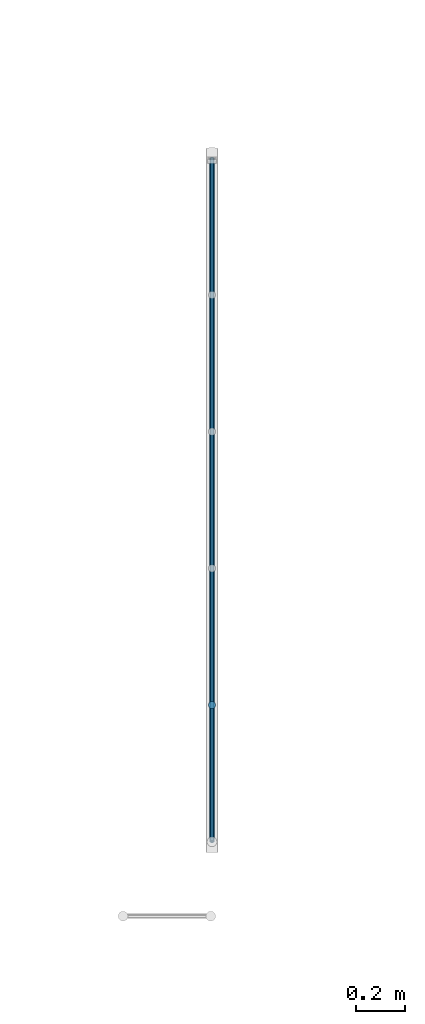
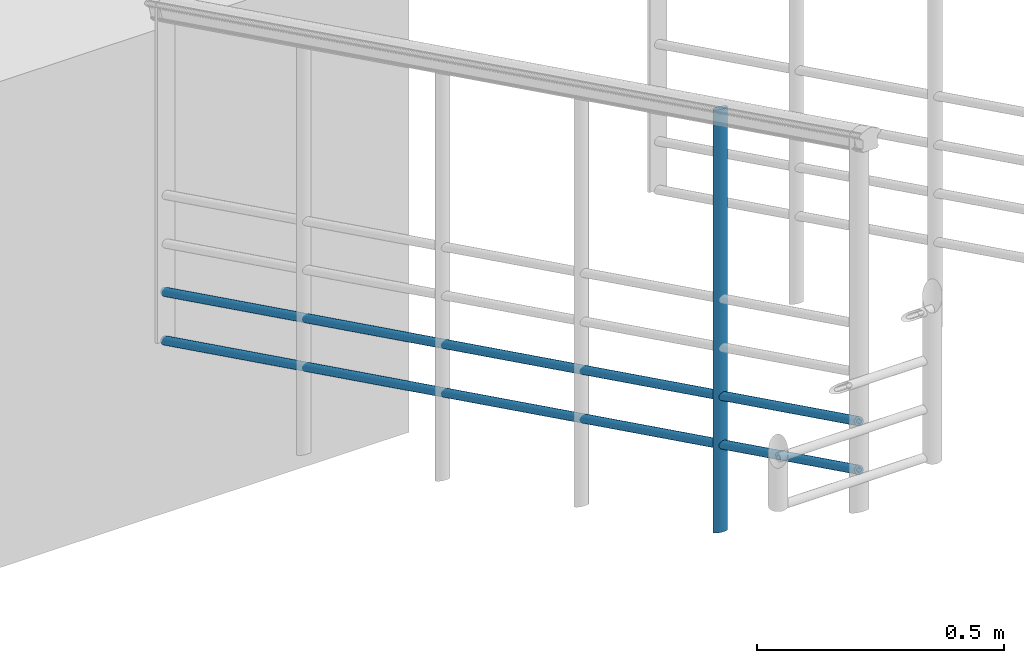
# One storey, part 2 of 16: 3 members, 1 element without a shape of its own.
"""IFC2X3 building model written with IfcOpenShell, lengths in millimetres."""

import ifcopenshell
import ifcopenshell.guid

model = None  # the IFC model being written
_history = None  # IfcOwnerHistory: only IFC2X3 demands one
_inside = {}  # id of a spatial element -> (the spatial element, [elements in it])
_under = {}  # id of a project, library or spatial element -> (it, [spatial elements below it])
_declared = {}  # id of a project -> (the project, [libraries it declares])
_typed = {}  # id of a type object -> (the type object, [elements of that type])
_made_of = {}  # id of a material, layer set ... -> (it, [elements and type objects made of it])


def new_model(schema):
    """Start an empty IFC model of exactly this schema.

    Asked for "IFC4X3", IfcOpenShell would pick the latest addendum, in which some entities
    have other attributes; the version numbers below select the first issue.
    IFC2X3 requires an IfcOwnerHistory on every rooted entity: one is made here for all.
    """
    global model, _history
    if schema == "IFC4X3":
        model = ifcopenshell.file(schema_version=(4, 3, 0, 0))
    else:
        model = ifcopenshell.file(schema=schema)
    _inside.clear()
    _under.clear()
    _declared.clear()
    _typed.clear()
    _made_of.clear()
    _history = None
    if model.schema == "IFC2X3":
        org = make("IfcOrganization", Name="unknown")
        user = make(
            "IfcPersonAndOrganization",
            ThePerson=make("IfcPerson", FamilyName="unknown"),
            TheOrganization=org,
        )
        app = make(
            "IfcApplication",
            ApplicationDeveloper=org,
            Version="unknown",
            ApplicationFullName="unknown",
            ApplicationIdentifier="unknown",
        )
        _history = make(
            "IfcOwnerHistory",
            OwningUser=user,
            OwningApplication=app,
            ChangeAction="ADDED",
            CreationDate=0,
        )
    return model


def make(cls, **values):
    """One entity of the class cls with the attributes given. An attribute that is None is left unset."""
    return model.create_entity(
        cls, **{name: value for name, value in values.items() if value is not None}
    )


def entity(cls, *values):
    """Any entity or typed value of the class cls, its attributes in the order of the schema. None: left unset."""
    e = model.create_entity(cls)
    for i, value in enumerate(values):
        if value is not None:
            e[i] = value
    return e


def rooted(cls, **values):
    """An entity with a GlobalId (a new one), such as an element, a storey or a relation."""
    return make(cls, GlobalId=ifcopenshell.guid.new(), OwnerHistory=_history, **values)


def si_unit(unit_type, name, prefix=None):
    """IfcSIUnit, for example si_unit("LENGTHUNIT", "METRE", prefix="MILLI")."""
    return make("IfcSIUnit", UnitType=unit_type, Prefix=prefix, Name=name)


def converted_unit(unit_type, name, factor, base, dimensions=None, offset=None):
    """IfcConversionBasedUnit, such as the inch: factor (a typed value) times the base unit."""
    return make(
        "IfcConversionBasedUnit"
        if offset is None
        else "IfcConversionBasedUnitWithOffset",
        ConversionOffset=offset,
        Dimensions=None
        if dimensions is None
        else entity("IfcDimensionalExponents", *dimensions),
        UnitType=unit_type,
        Name=name,
        ConversionFactor=make(
            "IfcMeasureWithUnit", ValueComponent=factor, UnitComponent=base
        ),
    )


def derived_unit(unit_type, elements):
    """IfcDerivedUnit: a product of units, each with its exponent."""
    return make(
        "IfcDerivedUnit",
        Elements=[
            make("IfcDerivedUnitElement", Unit=unit, Exponent=power)
            for unit, power in elements
        ],
        UnitType=unit_type,
    )


def money_unit(currency):
    """IfcMonetaryUnit."""
    return make("IfcMonetaryUnit", Currency=currency)


def assignment(units):
    """IfcUnitAssignment: the units of a project."""
    return None if units is None else make("IfcUnitAssignment", Units=units)


def point(xyz):
    """IfcCartesianPoint."""
    return None if xyz is None else make("IfcCartesianPoint", Coordinates=xyz)


def direction(xyz):
    """IfcDirection."""
    return None if xyz is None else make("IfcDirection", DirectionRatios=xyz)


def frame(location, z_axis=None, x_axis=None):
    """IfcAxis2Placement3D, a coordinate frame: its origin and axes. An axis left out is left unset."""
    return make(
        "IfcAxis2Placement3D",
        Location=point(location),
        Axis=direction(z_axis),
        RefDirection=direction(x_axis),
    )


def origin_with_axes():
    """The frame at (0, 0, 0) with the z axis (0, 0, 1) and the x axis (1, 0, 0) written out."""
    return frame((0.0, 0.0, 0.0), z_axis=(0.0, 0.0, 1.0), x_axis=(1.0, 0.0, 0.0))


def place(relative_to, where):
    """IfcLocalPlacement: puts the frame where relative to a parent placement (None: the world)."""
    return make(
        "IfcLocalPlacement", PlacementRelTo=relative_to, RelativePlacement=where
    )


def context(
    kind, dimensions, precision=None, world=None, true_north=None, identifier=None
):
    """IfcGeometricRepresentationContext, for example the 3D "Model" context."""
    return make(
        "IfcGeometricRepresentationContext",
        ContextIdentifier=identifier,
        ContextType=kind,
        CoordinateSpaceDimension=dimensions,
        Precision=precision,
        WorldCoordinateSystem=world,
        TrueNorth=true_north,
    )


def subcontext(parent, identifier, kind, view, scale=None):
    """IfcGeometricRepresentationSubContext, for example "Body" below "Model"."""
    return make(
        "IfcGeometricRepresentationSubContext",
        ContextIdentifier=identifier,
        ContextType=kind,
        ParentContext=parent,
        TargetScale=scale,
        TargetView=view,
    )


def project(units=None, contexts=None):
    """IfcProject with its units and contexts."""
    return rooted(
        "IfcProject",
        Name="project",
        RepresentationContexts=contexts,
        UnitsInContext=assignment(units),
    )


def spatial(cls, under=None, at=None, **own):
    """A site, building, storey or space (cls), placed at a placement, below another one or the project."""
    s = rooted(cls, ObjectPlacement=at, **own)
    if under is not None:
        _under.setdefault(under.id(), (under, []))[1].append(s)
    return s


def faces_of(points, faces, orient=None, outer=None):
    """IfcFace entities. A face is a list of loops; a loop is a list of indices into points, from 0.

    orient and outer hold one flag for each loop. By default every Orientation is true, the
    first loop of a face is its IfcFaceOuterBound and the others are IfcFaceBound.
    """
    made = []
    for i, loops in enumerate(faces):
        bounds = []
        for j, loop in enumerate(loops):
            is_outer = j == 0 if outer is None else outer[i][j]
            bounds.append(
                make(
                    "IfcFaceOuterBound" if is_outer else "IfcFaceBound",
                    Bound=make("IfcPolyLoop", Polygon=[points[k] for k in loop]),
                    Orientation=True if orient is None else orient[i][j],
                )
            )
        made.append(make("IfcFace", Bounds=bounds))
    return made


def faceted_brep(points, faces, orient=None, outer=None, voids=None):
    """IfcFacetedBrep: a solid bounded by flat faces; with voids (closed shells), ...WithVoids."""
    shared = [point(p) for p in points]
    hull = make("IfcClosedShell", CfsFaces=faces_of(shared, faces, orient, outer))
    if voids is None:
        return make("IfcFacetedBrep", Outer=hull)
    return make(
        "IfcFacetedBrepWithVoids",
        Outer=hull,
        Voids=[
            make(cls, CfsFaces=faces_of(shared, fs, o, b)) for cls, fs, o, b in voids
        ],
    )


def shape(context_of_items, identifier, shape_type, items):
    """IfcShapeRepresentation: the items that make up one representation, for example the "Body"."""
    return make(
        "IfcShapeRepresentation",
        ContextOfItems=context_of_items,
        RepresentationIdentifier=identifier,
        RepresentationType=shape_type,
        Items=items,
    )


def source(mapping_origin, context_of_items, identifier, shape_type, items):
    """IfcRepresentationMap: a shape defined once, which mapped items show again and again."""
    return make(
        "IfcRepresentationMap",
        MappingOrigin=mapping_origin,
        MappedRepresentation=shape(context_of_items, identifier, shape_type, items),
    )


def transform(
    local_origin,
    x_axis=None,
    y_axis=None,
    z_axis=None,
    scale=None,
    scale2=None,
    scale3=None,
    uniform=True,
):
    """IfcCartesianTransformationOperator3D, or its non-uniform kind. x_axis, y_axis, z_axis: its Axis1, 2, 3."""
    if uniform:
        return make(
            "IfcCartesianTransformationOperator3D",
            Axis1=direction(x_axis),
            Axis2=direction(y_axis),
            LocalOrigin=point(local_origin),
            Scale=scale,
            Axis3=direction(z_axis),
        )
    return make(
        "IfcCartesianTransformationOperator3DnonUniform",
        Axis1=direction(x_axis),
        Axis2=direction(y_axis),
        LocalOrigin=point(local_origin),
        Scale=scale,
        Axis3=direction(z_axis),
        Scale2=scale2,
        Scale3=scale3,
    )


def mapped(mapping_source, mapping_target):
    """IfcMappedItem: shows the shape of a source again, moved by a transform."""
    return make(
        "IfcMappedItem", MappingSource=mapping_source, MappingTarget=mapping_target
    )


def material(Name=None, Category=None):
    """IfcMaterial."""
    return make("IfcMaterial", Name=Name, Category=Category)


def made_of(thing, what):
    """Note that an element or type object is made of a material, layer set ...; save() writes the relation."""
    if what is not None:
        _made_of.setdefault(what.id(), (what, []))[1].append(thing)
    return thing


def type_object(cls, material=None, **own):
    """A type object (cls), such as IfcWallType, which elements share."""
    return made_of(rooted(cls, **own), material)


def element(
    cls,
    number,
    at=None,
    inside=None,
    cuts=None,
    type_object=None,
    material=None,
    context=None,
    identifier="Body",
    shape_type=None,
    held_by="IfcProductDefinitionShape",
    body=None,
    shapes=None,
    **own,
):
    """One element of the class cls, such as IfcWall. Its Tag is "e" and its number.

    at: its placement. inside: the storey or other place that contains it. cuts: it is an
    opening in that element (IfcRelVoidsElement). A single representation is given by context,
    identifier, shape_type and body (its items); several are given by shapes. held_by: the class
    of the entity that holds the representations. save() writes the other relations.
    """
    e = rooted(cls, Tag="e%d" % number, ObjectPlacement=at, **own)
    if body is not None:
        shapes = [shape(context, identifier, shape_type, body)]
    if shapes is not None:
        e.Representation = make(held_by, Representations=shapes)
    if inside is not None:
        _inside.setdefault(inside.id(), (inside, []))[1].append(e)
    if cuts is not None:
        rooted(
            "IfcRelVoidsElement", RelatingBuildingElement=cuts, RelatedOpeningElement=e
        )
    if type_object is not None:
        _typed.setdefault(type_object.id(), (type_object, []))[1].append(e)
    return made_of(e, material)


def aggregate(whole, parts):
    """IfcRelAggregates: a whole, such as a stair, and the parts it consists of."""
    return rooted("IfcRelAggregates", RelatingObject=whole, RelatedObjects=parts)


def save(model, path):
    """Write the relations noted so far, then the file.

    IfcRelAggregates (storeys below a building ...), IfcRelContainedInSpatialStructure (elements
    in a storey), IfcRelDefinesByType, IfcRelAssociatesMaterial and IfcRelDeclares: one each for
    every whole, place, type object, material and project.
    """
    for whole, parts in _under.values():
        aggregate(whole, parts)
    for where, things in _inside.values():
        rooted(
            "IfcRelContainedInSpatialStructure",
            RelatedElements=things,
            RelatingStructure=where,
        )
    for kind, things in _typed.values():
        rooted("IfcRelDefinesByType", RelatedObjects=things, RelatingType=kind)
    for what, things in _made_of.values():
        rooted("IfcRelAssociatesMaterial", RelatedObjects=things, RelatingMaterial=what)
    for by, libraries in _declared.values():
        rooted("IfcRelDeclares", RelatingContext=by, RelatedDefinitions=libraries)
    model.write(path)


model = new_model("IFC2X3")

# Units and contexts
model_context = context("Model", 3, precision=0.01, world=origin_with_axes(), true_north=direction((0.0, 1.0)))
body_context = subcontext(model_context, "Body", "Model", "MODEL_VIEW")
ifc_project = project(units=[si_unit("LENGTHUNIT", "METRE", prefix="MILLI"), si_unit("AREAUNIT", "SQUARE_METRE"), si_unit("VOLUMEUNIT", "CUBIC_METRE"), converted_unit("PLANEANGLEUNIT", "DEGREE", entity("IfcPlaneAngleMeasure", 0.0174532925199), si_unit("PLANEANGLEUNIT", "RADIAN"), dimensions=[0, 0, 0, 0, 0, 0, 0]), si_unit("SOLIDANGLEUNIT", "STERADIAN"), money_unit("EUR"), converted_unit("TIMEUNIT", "Year", entity("IfcTimeMeasure", 31556926.0), si_unit("TIMEUNIT", "SECOND"), dimensions=[0, 0, 1, 0, 0, 0, 0]), si_unit("MASSUNIT", "GRAM", prefix="KILO"), si_unit("THERMODYNAMICTEMPERATUREUNIT", "DEGREE_CELSIUS"), si_unit("LUMINOUSINTENSITYUNIT", "LUMEN"), si_unit("ENERGYUNIT", "JOULE", prefix="MEGA"), derived_unit("THERMALCONDUCTANCEUNIT", [(si_unit("POWERUNIT", "WATT"), 1), (si_unit("LENGTHUNIT", "METRE"), -1), (si_unit("THERMODYNAMICTEMPERATUREUNIT", "KELVIN"), -1)]), derived_unit("SPECIFICHEATCAPACITYUNIT", [(si_unit("ENERGYUNIT", "JOULE"), 1), (si_unit("MASSUNIT", "GRAM", prefix="KILO"), -1), (si_unit("THERMODYNAMICTEMPERATUREUNIT", "KELVIN"), -1)]), derived_unit("MASSDENSITYUNIT", [(si_unit("MASSUNIT", "GRAM", prefix="KILO"), 1), (si_unit("VOLUMEUNIT", "CUBIC_METRE"), -1)])], contexts=[model_context])

# Site, building, storey
site_placement = place(None, origin_with_axes())
site = spatial("IfcSite", under=ifc_project, at=site_placement, Name="Paldiski mnt 245/1, Tallinn, Harjumaa", CompositionType="COMPLEX")
building_placement = place(site_placement, origin_with_axes())
building = spatial("IfcBuilding", under=site, at=building_placement, Name="RKAS Hoone üldnimetus (kasutust iseloomustav) -> IFC Project Manager -> SOLIBRI", CompositionType="ELEMENT")
storey_placement = place(building_placement, frame((0.0, 0.0, -1200.0), z_axis=(0.0, 0.0, 1.0), x_axis=(1.0, 0.0, 0.0)))
storey = spatial("IfcBuildingStorey", under=building, at=storey_placement, Name="Vundament", CompositionType="ELEMENT", Elevation=-1200.0)

# Railing, members
railing_type = type_object("IfcRailingType", Name="Railing Type", PredefinedType="NOTDEFINED")
railing_placement = place(storey_placement, frame((-45764.8098199, -7778.11378171, 1483.63636364), z_axis=(0.0, 0.0, 1.0), x_axis=(-0.773149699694, -0.634223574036, 0.0)))
railing = element("IfcRailing", 1, at=railing_placement, inside=storey, type_object=railing_type, Name="PIIRE", PredefinedType="NOTDEFINED")
ifc_material = material(Name="ET-07_Teras - Roostevaba")
member_type_1 = type_object("IfcMemberType", Name="IfcMember", PredefinedType="USERDEFINED")
shared_shape_1 = source(origin_with_axes(), body_context, "Body", "Brep", [
    faceted_brep([(10.0, 0.0, 100.0), (9.84807753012, 0.767326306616, 101.55774815), (9.84807753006, -2806.30553558, 1484.28502088), (9.99999999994, -2807.07286188, 1482.72727273), (9.84807753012, -0.767326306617, 98.4422518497), (9.39692620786, -1.51133779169, 96.9318350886), (8.66025403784, -2.20942804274, 95.5146429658), (7.66044443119, -2.84038594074, 94.2337361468), (6.42787609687, -3.38504014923, 93.1280343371), (5.0, -3.82684162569, 92.2311337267), (3.42020143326, -4.15236645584, 91.5702861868), (1.73648177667, -4.35172373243, 91.1655712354), (0.0, -4.41885608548, 91.0292859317), (-1.73648177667, -4.35172373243, 91.1655712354), (-3.42020143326, -4.15236645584, 91.5702861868), (-5.0, -3.82684162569, 92.2311337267), (-6.42787609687, -3.38504014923, 93.1280343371), (-7.66044443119, -2.84038594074, 94.2337361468), (-8.66025403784, -2.20942804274, 95.5146429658), (-9.39692620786, -1.51133779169, 96.9318350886), (-9.84807753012, -0.767326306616, 98.4422518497), (-10.0, 0.0, 100.0), (-9.84807753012, 0.767326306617, 101.55774815), (-9.39692620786, 1.51133779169, 103.068164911), (-8.66025403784, 2.20942804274, 104.485357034), (-7.66044443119, 2.84038594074, 105.766263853), (-6.42787609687, 3.38504014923, 106.871965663), (-5.0, 3.82684162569, 107.768866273), (-3.42020143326, 4.15236645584, 108.429713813), (-1.73648177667, 4.35172373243, 108.834428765), (0.0, 4.41885608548, 108.970714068), (1.73648177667, 4.35172373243, 108.834428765), (3.42020143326, 4.15236645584, 108.429713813), (5.0, 3.82684162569, 107.768866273), (6.42787609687, 3.38504014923, 106.871965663), (7.66044443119, 2.84038594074, 105.766263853), (8.66025403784, 2.20942804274, 104.485357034), (9.39692620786, 1.51133779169, 103.068164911), (5.5, 0.0, 100.0), (5.41644264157, 0.422029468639, 100.856761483), (5.16830941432, 0.83123578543, 101.687490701), (4.76313972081, 1.21518542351, 102.466946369), (4.21324443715, 1.5622122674, 103.171445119), (3.53533185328, 1.86177208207, 103.779581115), (2.75, 2.10476289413, 104.27287645), (1.88111078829, 2.28380155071, 104.636342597), (0.955064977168, 2.39344805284, 104.858935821), (0.0, 2.43037084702, 104.933892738), (-0.955064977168, 2.39344805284, 104.858935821), (-1.88111078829, 2.28380155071, 104.636342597), (-2.75, 2.10476289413, 104.27287645), (-3.53533185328, 1.86177208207, 103.779581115), (-4.21324443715, 1.5622122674, 103.171445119), (-4.76313972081, 1.21518542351, 102.466946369), (-5.16830941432, 0.831235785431, 101.687490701), (-5.41644264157, 0.422029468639, 100.856761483), (-5.5, 0.0, 100.0), (-5.41644264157, -0.422029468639, 99.1432385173), (-5.16830941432, -0.83123578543, 98.3125092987), (-4.76313972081, -1.21518542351, 97.5330536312), (-4.21324443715, -1.5622122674, 96.8285548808), (-3.53533185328, -1.86177208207, 96.2204188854), (-2.75, -2.10476289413, 95.7271235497), (-1.88111078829, -2.28380155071, 95.3636574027), (-0.955064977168, -2.39344805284, 95.1410641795), (0.0, -2.43037084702, 95.0661072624), (0.955064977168, -2.39344805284, 95.1410641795), (1.88111078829, -2.28380155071, 95.3636574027), (2.75, -2.10476289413, 95.7271235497), (3.53533185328, -1.86177208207, 96.2204188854), (4.21324443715, -1.5622122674, 96.8285548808), (4.76313972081, -1.21518542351, 97.5330536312), (5.16830941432, -0.831235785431, 98.3125092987), (5.41644264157, -0.422029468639, 99.1432385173), (9.3969262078, -2805.56152409, 1485.79543764), (8.66025403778, -2804.86343384, 1487.21262976), (7.66044443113, -2804.23247594, 1488.49353658), (6.4278760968, -2803.68782173, 1489.59923839), (4.99999999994, -2803.24602026, 1490.496139), (3.42020143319, -2802.92049543, 1491.15698654), (1.73648177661, -2802.72113815, 1491.56170149), (0.0, -2802.6540058, 1491.6979868), (-1.73648177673, -2802.72113815, 1491.56170149), (-3.42020143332, -2802.92049543, 1491.15698654), (-5.00000000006, -2803.24602026, 1490.496139), (-6.42787609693, -2803.68782173, 1489.59923839), (-7.66044443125, -2804.23247594, 1488.49353658), (-8.66025403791, -2804.86343384, 1487.21262976), (-9.39692620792, -2805.56152409, 1485.79543764), (-9.84807753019, -2806.30553558, 1484.28502088), (-10.0000000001, -2807.07286188, 1482.72727273), (-9.84807753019, -2807.84018819, 1481.16952458), (-9.39692620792, -2808.58419967, 1479.65910782), (-8.66025403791, -2809.28228993, 1478.24191569), (-7.66044443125, -2809.91324782, 1476.96100887), (-6.42787609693, -2810.45790203, 1475.85530706), (-5.00000000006, -2810.89970351, 1474.95840645), (-3.42020143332, -2811.22522834, 1474.29755891), (-1.73648177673, -2811.42458562, 1473.89284396), (0.0, -2811.49171797, 1473.75655866), (1.73648177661, -2811.42458562, 1473.89284396), (3.42020143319, -2811.22522834, 1474.29755891), (4.99999999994, -2810.89970351, 1474.95840645), (6.4278760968, -2810.45790203, 1475.85530706), (7.66044443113, -2809.91324782, 1476.96100887), (8.66025403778, -2809.28228993, 1478.24191569), (9.3969262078, -2808.58419967, 1479.65910782), (9.84807753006, -2807.84018819, 1481.16952458), (5.49999999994, -2807.07286188, 1482.72727273), (5.4164426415, -2807.49489135, 1481.87051124), (5.16830941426, -2807.90409767, 1481.03978203), (4.76313972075, -2808.28804731, 1480.26032636), (4.21324443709, -2808.63507415, 1479.55582761), (3.53533185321, -2808.93463397, 1478.94769161), (2.74999999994, -2809.17762478, 1478.45439628), (1.88111078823, -2809.35666343, 1478.09093013), (0.955064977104, -2809.46630994, 1477.86833691), (0.0, -2809.50323273, 1477.79337999), (-0.955064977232, -2809.46630994, 1477.86833691), (-1.88111078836, -2809.35666343, 1478.09093013), (-2.75000000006, -2809.17762478, 1478.45439628), (-3.53533185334, -2808.93463397, 1478.94769161), (-4.21324443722, -2808.63507415, 1479.55582761), (-4.76313972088, -2808.28804731, 1480.26032636), (-5.16830941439, -2807.90409767, 1481.03978203), (-5.41644264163, -2807.49489135, 1481.87051124), (-5.50000000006, -2807.07286188, 1482.72727273), (-5.41644264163, -2806.65083241, 1483.58403421), (-5.16830941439, -2806.2416261, 1484.41476343), (-4.76313972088, -2805.85767646, 1485.1942191), (-4.21324443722, -2805.51064962, 1485.89871785), (-3.53533185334, -2805.2110898, 1486.50685384), (-2.75000000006, -2804.96809899, 1487.00014918), (-1.88111078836, -2804.78906033, 1487.36361532), (-0.955064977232, -2804.67941383, 1487.58620855), (0.0, -2804.64249104, 1487.66116546), (0.955064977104, -2804.67941383, 1487.58620855), (1.88111078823, -2804.78906033, 1487.36361532), (2.74999999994, -2804.96809899, 1487.00014918), (3.53533185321, -2805.2110898, 1486.50685384), (4.21324443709, -2805.51064962, 1485.89871785), (4.76313972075, -2805.85767646, 1485.1942191), (5.16830941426, -2806.2416261, 1484.41476343), (5.4164426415, -2806.65083241, 1483.58403421)], [[[0, 1, 2, 3]], [[0, 4, 5, 6, 7, 8, 9, 10, 11, 12, 13, 14, 15, 16, 17, 18, 19, 20, 21, 22, 23, 24, 25, 26, 27, 28, 29, 30, 31, 32, 33, 34, 35, 36, 37, 1], [38, 39, 40, 41, 42, 43, 44, 45, 46, 47, 48, 49, 50, 51, 52, 53, 54, 55, 56, 57, 58, 59, 60, 61, 62, 63, 64, 65, 66, 67, 68, 69, 70, 71, 72, 73]], [[1, 37, 74, 2]], [[3, 2, 74, 75, 76, 77, 78, 79, 80, 81, 82, 83, 84, 85, 86, 87, 88, 89, 90, 91, 92, 93, 94, 95, 96, 97, 98, 99, 100, 101, 102, 103, 104, 105, 106, 107], [108, 109, 110, 111, 112, 113, 114, 115, 116, 117, 118, 119, 120, 121, 122, 123, 124, 125, 126, 127, 128, 129, 130, 131, 132, 133, 134, 135, 136, 137, 138, 139, 140, 141, 142, 143]], [[4, 0, 3, 107]], [[5, 4, 107, 106]], [[6, 5, 106, 105]], [[7, 6, 105, 104]], [[8, 7, 104, 103]], [[9, 8, 103, 102]], [[10, 9, 102, 101]], [[11, 10, 101, 100]], [[12, 11, 100, 99]], [[13, 12, 99, 98]], [[14, 13, 98, 97]], [[15, 14, 97, 96]], [[16, 15, 96, 95]], [[17, 16, 95, 94]], [[18, 17, 94, 93]], [[19, 18, 93, 92]], [[20, 19, 92, 91]], [[21, 20, 91, 90]], [[22, 21, 90, 89]], [[23, 22, 89, 88]], [[24, 23, 88, 87]], [[25, 24, 87, 86]], [[26, 25, 86, 85]], [[27, 26, 85, 84]], [[28, 27, 84, 83]], [[29, 28, 83, 82]], [[30, 29, 82, 81]], [[31, 30, 81, 80]], [[32, 31, 80, 79]], [[33, 32, 79, 78]], [[34, 33, 78, 77]], [[35, 34, 77, 76]], [[36, 35, 76, 75]], [[37, 36, 75, 74]], [[39, 38, 108, 143]], [[40, 39, 143, 142]], [[41, 40, 142, 141]], [[42, 41, 141, 140]], [[43, 42, 140, 139]], [[44, 43, 139, 138]], [[45, 44, 138, 137]], [[46, 45, 137, 136]], [[47, 46, 136, 135]], [[48, 47, 135, 134]], [[49, 48, 134, 133]], [[50, 49, 133, 132]], [[51, 50, 132, 131]], [[52, 51, 131, 130]], [[53, 52, 130, 129]], [[54, 53, 129, 128]], [[55, 54, 128, 127]], [[56, 55, 127, 126]], [[57, 56, 126, 125]], [[58, 57, 125, 124]], [[59, 58, 124, 123]], [[60, 59, 123, 122]], [[61, 60, 122, 121]], [[62, 61, 121, 120]], [[63, 62, 120, 119]], [[64, 63, 119, 118]], [[65, 64, 118, 117]], [[66, 65, 117, 116]], [[67, 66, 116, 115]], [[68, 67, 115, 114]], [[69, 68, 114, 113]], [[70, 69, 113, 112]], [[71, 70, 112, 111]], [[72, 71, 111, 110]], [[73, 72, 110, 109]], [[38, 73, 109, 108]]]),
])
member_1_placement = place(railing_placement, frame((890.155891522, 1085.14377009, -14.1421356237), z_axis=(0.0, 0.0, 1.0), x_axis=(-0.773149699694, 0.634223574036, 0.0)))
member_1 = element("IfcMember", 2, at=member_1_placement, type_object=member_type_1, material=ifc_material, Name="Piirde alaosa - 001", ObjectType="Rail", context=body_context, shape_type="MappedRepresentation", body=[
    mapped(shared_shape_1, transform((0.0, 1403.53643094, -85.8578643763))),
])
shared_shape_2 = source(origin_with_axes(), body_context, "Body", "Brep", [
    faceted_brep([(10.0, 0.0, 220.0), (9.84807753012, 0.767326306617, 221.55774815), (9.84807753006, -2806.30553558, 1604.28502088), (9.99999999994, -2807.07286188, 1602.72727273), (9.84807753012, -0.767326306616, 218.44225185), (9.39692620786, -1.51133779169, 216.931835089), (8.66025403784, -2.20942804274, 215.514642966), (7.66044443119, -2.84038594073, 214.233736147), (6.42787609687, -3.38504014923, 213.128034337), (5.0, -3.82684162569, 212.231133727), (3.42020143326, -4.15236645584, 211.570286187), (1.73648177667, -4.35172373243, 211.165571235), (0.0, -4.41885608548, 211.029285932), (-1.73648177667, -4.35172373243, 211.165571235), (-3.42020143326, -4.15236645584, 211.570286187), (-5.0, -3.82684162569, 212.231133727), (-6.42787609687, -3.38504014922, 213.128034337), (-7.66044443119, -2.84038594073, 214.233736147), (-8.66025403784, -2.20942804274, 215.514642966), (-9.39692620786, -1.51133779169, 216.931835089), (-9.84807753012, -0.767326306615, 218.44225185), (-10.0, 0.0, 220.0), (-9.84807753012, 0.767326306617, 221.55774815), (-9.39692620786, 1.51133779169, 223.068164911), (-8.66025403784, 2.20942804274, 224.485357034), (-7.66044443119, 2.84038594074, 225.766263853), (-6.42787609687, 3.38504014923, 226.871965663), (-5.0, 3.8268416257, 227.768866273), (-3.42020143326, 4.15236645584, 228.429713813), (-1.73648177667, 4.35172373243, 228.834428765), (0.0, 4.41885608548, 228.970714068), (1.73648177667, 4.35172373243, 228.834428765), (3.42020143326, 4.15236645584, 228.429713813), (5.0, 3.8268416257, 227.768866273), (6.42787609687, 3.38504014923, 226.871965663), (7.66044443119, 2.84038594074, 225.766263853), (8.66025403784, 2.20942804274, 224.485357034), (9.39692620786, 1.51133779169, 223.068164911), (5.5, 0.0, 220.0), (5.41644264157, 0.42202946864, 220.856761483), (5.16830941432, 0.831235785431, 221.687490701), (4.76313972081, 1.21518542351, 222.466946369), (4.21324443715, 1.56221226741, 223.171445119), (3.53533185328, 1.86177208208, 223.779581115), (2.75, 2.10476289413, 224.27287645), (1.88111078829, 2.28380155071, 224.636342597), (0.955064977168, 2.39344805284, 224.858935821), (0.0, 2.43037084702, 224.933892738), (-0.955064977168, 2.39344805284, 224.858935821), (-1.88111078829, 2.28380155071, 224.636342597), (-2.75, 2.10476289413, 224.27287645), (-3.53533185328, 1.86177208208, 223.779581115), (-4.21324443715, 1.56221226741, 223.171445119), (-4.76313972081, 1.21518542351, 222.466946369), (-5.16830941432, 0.831235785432, 221.687490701), (-5.41644264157, 0.42202946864, 220.856761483), (-5.5, 0.0, 220.0), (-5.41644264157, -0.422029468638, 219.143238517), (-5.16830941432, -0.83123578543, 218.312509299), (-4.76313972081, -1.21518542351, 217.533053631), (-4.21324443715, -1.5622122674, 216.828554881), (-3.53533185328, -1.86177208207, 216.220418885), (-2.75, -2.10476289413, 215.72712355), (-1.88111078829, -2.28380155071, 215.363657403), (-0.955064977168, -2.39344805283, 215.141064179), (0.0, -2.43037084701, 215.066107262), (0.955064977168, -2.39344805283, 215.141064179), (1.88111078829, -2.28380155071, 215.363657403), (2.75, -2.10476289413, 215.72712355), (3.53533185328, -1.86177208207, 216.220418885), (4.21324443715, -1.5622122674, 216.828554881), (4.76313972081, -1.21518542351, 217.533053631), (5.16830941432, -0.83123578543, 218.312509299), (5.41644264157, -0.422029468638, 219.143238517), (9.3969262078, -2805.56152409, 1605.79543764), (8.66025403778, -2804.86343384, 1607.21262976), (7.66044443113, -2804.23247594, 1608.49353658), (6.4278760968, -2803.68782173, 1609.59923839), (4.99999999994, -2803.24602026, 1610.496139), (3.42020143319, -2802.92049543, 1611.15698654), (1.73648177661, -2802.72113815, 1611.56170149), (0.0, -2802.6540058, 1611.6979868), (-1.73648177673, -2802.72113815, 1611.56170149), (-3.42020143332, -2802.92049543, 1611.15698654), (-5.00000000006, -2803.24602026, 1610.496139), (-6.42787609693, -2803.68782173, 1609.59923839), (-7.66044443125, -2804.23247594, 1608.49353658), (-8.66025403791, -2804.86343384, 1607.21262976), (-9.39692620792, -2805.56152409, 1605.79543764), (-9.84807753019, -2806.30553558, 1604.28502088), (-10.0000000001, -2807.07286188, 1602.72727273), (-9.84807753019, -2807.84018819, 1601.16952458), (-9.39692620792, -2808.58419967, 1599.65910782), (-8.66025403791, -2809.28228993, 1598.24191569), (-7.66044443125, -2809.91324782, 1596.96100887), (-6.42787609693, -2810.45790203, 1595.85530706), (-5.00000000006, -2810.89970351, 1594.95840645), (-3.42020143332, -2811.22522834, 1594.29755891), (-1.73648177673, -2811.42458562, 1593.89284396), (0.0, -2811.49171797, 1593.75655866), (1.73648177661, -2811.42458562, 1593.89284396), (3.42020143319, -2811.22522834, 1594.29755891), (4.99999999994, -2810.89970351, 1594.95840645), (6.4278760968, -2810.45790203, 1595.85530706), (7.66044443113, -2809.91324782, 1596.96100887), (8.66025403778, -2809.28228993, 1598.24191569), (9.3969262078, -2808.58419967, 1599.65910782), (9.84807753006, -2807.84018819, 1601.16952458), (5.49999999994, -2807.07286188, 1602.72727273), (5.4164426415, -2807.49489135, 1601.87051124), (5.16830941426, -2807.90409767, 1601.03978203), (4.76313972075, -2808.28804731, 1600.26032636), (4.21324443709, -2808.63507415, 1599.55582761), (3.53533185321, -2808.93463397, 1598.94769161), (2.74999999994, -2809.17762478, 1598.45439628), (1.88111078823, -2809.35666343, 1598.09093013), (0.955064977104, -2809.46630994, 1597.86833691), (0.0, -2809.50323273, 1597.79337999), (-0.955064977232, -2809.46630994, 1597.86833691), (-1.88111078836, -2809.35666343, 1598.09093013), (-2.75000000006, -2809.17762478, 1598.45439628), (-3.53533185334, -2808.93463397, 1598.94769161), (-4.21324443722, -2808.63507415, 1599.55582761), (-4.76313972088, -2808.28804731, 1600.26032636), (-5.16830941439, -2807.90409767, 1601.03978203), (-5.41644264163, -2807.49489135, 1601.87051124), (-5.50000000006, -2807.07286188, 1602.72727273), (-5.41644264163, -2806.65083241, 1603.58403421), (-5.16830941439, -2806.2416261, 1604.41476343), (-4.76313972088, -2805.85767646, 1605.1942191), (-4.21324443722, -2805.51064962, 1605.89871785), (-3.53533185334, -2805.2110898, 1606.50685384), (-2.75000000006, -2804.96809899, 1607.00014918), (-1.88111078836, -2804.78906033, 1607.36361532), (-0.955064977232, -2804.67941383, 1607.58620855), (0.0, -2804.64249104, 1607.66116546), (0.955064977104, -2804.67941383, 1607.58620855), (1.88111078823, -2804.78906033, 1607.36361532), (2.74999999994, -2804.96809899, 1607.00014918), (3.53533185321, -2805.2110898, 1606.50685384), (4.21324443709, -2805.51064962, 1605.89871785), (4.76313972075, -2805.85767646, 1605.1942191), (5.16830941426, -2806.2416261, 1604.41476343), (5.4164426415, -2806.65083241, 1603.58403421)], [[[0, 1, 2, 3]], [[0, 4, 5, 6, 7, 8, 9, 10, 11, 12, 13, 14, 15, 16, 17, 18, 19, 20, 21, 22, 23, 24, 25, 26, 27, 28, 29, 30, 31, 32, 33, 34, 35, 36, 37, 1], [38, 39, 40, 41, 42, 43, 44, 45, 46, 47, 48, 49, 50, 51, 52, 53, 54, 55, 56, 57, 58, 59, 60, 61, 62, 63, 64, 65, 66, 67, 68, 69, 70, 71, 72, 73]], [[1, 37, 74, 2]], [[3, 2, 74, 75, 76, 77, 78, 79, 80, 81, 82, 83, 84, 85, 86, 87, 88, 89, 90, 91, 92, 93, 94, 95, 96, 97, 98, 99, 100, 101, 102, 103, 104, 105, 106, 107], [108, 109, 110, 111, 112, 113, 114, 115, 116, 117, 118, 119, 120, 121, 122, 123, 124, 125, 126, 127, 128, 129, 130, 131, 132, 133, 134, 135, 136, 137, 138, 139, 140, 141, 142, 143]], [[4, 0, 3, 107]], [[5, 4, 107, 106]], [[6, 5, 106, 105]], [[7, 6, 105, 104]], [[8, 7, 104, 103]], [[9, 8, 103, 102]], [[10, 9, 102, 101]], [[11, 10, 101, 100]], [[12, 11, 100, 99]], [[13, 12, 99, 98]], [[14, 13, 98, 97]], [[15, 14, 97, 96]], [[16, 15, 96, 95]], [[17, 16, 95, 94]], [[18, 17, 94, 93]], [[19, 18, 93, 92]], [[20, 19, 92, 91]], [[21, 20, 91, 90]], [[22, 21, 90, 89]], [[23, 22, 89, 88]], [[24, 23, 88, 87]], [[25, 24, 87, 86]], [[26, 25, 86, 85]], [[27, 26, 85, 84]], [[28, 27, 84, 83]], [[29, 28, 83, 82]], [[30, 29, 82, 81]], [[31, 30, 81, 80]], [[32, 31, 80, 79]], [[33, 32, 79, 78]], [[34, 33, 78, 77]], [[35, 34, 77, 76]], [[36, 35, 76, 75]], [[37, 36, 75, 74]], [[39, 38, 108, 143]], [[40, 39, 143, 142]], [[41, 40, 142, 141]], [[42, 41, 141, 140]], [[43, 42, 140, 139]], [[44, 43, 139, 138]], [[45, 44, 138, 137]], [[46, 45, 137, 136]], [[47, 46, 136, 135]], [[48, 47, 135, 134]], [[49, 48, 134, 133]], [[50, 49, 133, 132]], [[51, 50, 132, 131]], [[52, 51, 131, 130]], [[53, 52, 130, 129]], [[54, 53, 129, 128]], [[55, 54, 128, 127]], [[56, 55, 127, 126]], [[57, 56, 126, 125]], [[58, 57, 125, 124]], [[59, 58, 124, 123]], [[60, 59, 123, 122]], [[61, 60, 122, 121]], [[62, 61, 121, 120]], [[63, 62, 120, 119]], [[64, 63, 119, 118]], [[65, 64, 118, 117]], [[66, 65, 117, 116]], [[67, 66, 116, 115]], [[68, 67, 115, 114]], [[69, 68, 114, 113]], [[70, 69, 113, 112]], [[71, 70, 112, 111]], [[72, 71, 111, 110]], [[73, 72, 110, 109]], [[38, 73, 109, 108]]]),
])
member_2_placement = place(railing_placement, frame((890.155891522, 1085.14377009, 105.857864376), z_axis=(0.0, 0.0, 1.0), x_axis=(-0.773149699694, 0.634223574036, 0.0)))
member_2 = element("IfcMember", 3, at=member_2_placement, type_object=member_type_1, material=ifc_material, Name="Piirde alaosa - 001", ObjectType="Rail", context=body_context, shape_type="MappedRepresentation", body=[
    mapped(shared_shape_2, transform((0.0, 1403.53643094, -205.857864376))),
])
member_type_2 = type_object("IfcMemberType", Name="IfcMember", PredefinedType="POST")
shared_shape_3 = source(origin_with_axes(), body_context, "Body", "Brep", [
    faceted_brep([(0.0, -15.0, -7.38880325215), (2.604722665, -14.7721162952, -7.2765507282), (2.604722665, -14.7721162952, 1037.47253237), (0.0, -15.0, 1037.36027985), (-2.604722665, -14.7721162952, -7.2765507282), (-5.13030214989, -14.0953893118, -6.94320389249), (-7.5, -12.9903810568, -6.39889131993), (-9.6418141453, -11.4906666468, -5.66015167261), (-11.4906666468, -9.6418141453, -4.74943118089), (-12.9903810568, -7.5, -3.69440162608), (-14.0953893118, -5.13030214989, -2.52711954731), (-14.7721162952, -2.604722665, -1.28305221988), (-15.0, 0.0, 0.0), (-14.7721162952, 2.604722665, 1.28305221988), (-14.0953893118, 5.13030214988, 2.52711954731), (-12.9903810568, 7.5, 3.69440162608), (-11.4906666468, 9.6418141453, 4.74943118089), (-9.6418141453, 11.4906666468, 5.66015167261), (-7.5, 12.9903810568, 6.39889131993), (-5.13030214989, 14.0953893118, 6.94320389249), (-2.604722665, 14.7721162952, 7.2765507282), (0.0, 15.0, 7.38880325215), (2.604722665, 14.7721162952, 7.2765507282), (5.13030214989, 14.0953893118, 6.94320389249), (7.5, 12.9903810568, 6.39889131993), (9.6418141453, 11.4906666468, 5.66015167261), (11.4906666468, 9.6418141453, 4.74943118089), (12.9903810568, 7.5, 3.69440162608), (14.0953893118, 5.13030214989, 2.52711954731), (14.7721162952, 2.604722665, 1.28305221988), (15.0, 0.0, 0.0), (14.7721162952, -2.604722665, -1.28305221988), (14.0953893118, -5.13030214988, -2.52711954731), (12.9903810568, -7.5, -3.69440162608), (11.4906666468, -9.6418141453, -4.74943118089), (9.6418141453, -11.4906666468, -5.66015167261), (7.5, -12.9903810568, -6.39889131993), (5.13030214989, -14.0953893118, -6.94320389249), (5.13030214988, -14.0953893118, 1037.80587921), (7.5, -12.9903810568, 1038.35019178), (9.6418141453, -11.4906666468, 1039.08893143), (11.4906666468, -9.6418141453, 1039.99965192), (12.9903810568, -7.5, 1041.05468148), (14.0953893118, -5.13030214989, 1042.22196355), (14.7721162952, -2.60472266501, 1043.46603088), (15.0, 0.0, 1044.7490831), (14.7721162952, 2.604722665, 1046.03213532), (14.0953893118, 5.13030214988, 1047.27620265), (12.9903810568, 7.5, 1048.44348473), (11.4906666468, 9.64181414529, 1049.49851428), (9.6418141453, 11.4906666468, 1050.40923477), (7.5, 12.9903810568, 1051.14797442), (5.13030214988, 14.0953893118, 1051.69228699), (2.604722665, 14.7721162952, 1052.02563383), (0.0, 15.0, 1052.13788635), (-2.604722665, 14.7721162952, 1052.02563383), (-5.13030214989, 14.0953893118, 1051.69228699), (-7.5, 12.9903810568, 1051.14797442), (-9.6418141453, 11.4906666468, 1050.40923477), (-11.4906666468, 9.64181414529, 1049.49851428), (-12.9903810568, 7.5, 1048.44348473), (-14.0953893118, 5.13030214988, 1047.27620265), (-14.7721162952, 2.604722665, 1046.03213532), (-15.0, 0.0, 1044.7490831), (-14.7721162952, -2.60472266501, 1043.46603088), (-14.0953893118, -5.13030214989, 1042.22196355), (-12.9903810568, -7.5, 1041.05468148), (-11.4906666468, -9.6418141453, 1039.99965192), (-9.6418141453, -11.4906666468, 1039.08893143), (-7.5, -12.9903810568, 1038.35019178), (-5.13030214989, -14.0953893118, 1037.80587921), (-2.604722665, -14.7721162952, 1037.47253237)], [[[0, 1, 2, 3]], [[0, 4, 5, 6, 7, 8, 9, 10, 11, 12, 13, 14, 15, 16, 17, 18, 19, 20, 21, 22, 23, 24, 25, 26, 27, 28, 29, 30, 31, 32, 33, 34, 35, 36, 37, 1]], [[1, 37, 38, 2]], [[3, 2, 38, 39, 40, 41, 42, 43, 44, 45, 46, 47, 48, 49, 50, 51, 52, 53, 54, 55, 56, 57, 58, 59, 60, 61, 62, 63, 64, 65, 66, 67, 68, 69, 70, 71]], [[4, 0, 3, 71]], [[5, 4, 71, 70]], [[6, 5, 70, 69]], [[7, 6, 69, 68]], [[8, 7, 68, 67]], [[9, 8, 67, 66]], [[10, 9, 66, 65]], [[11, 10, 65, 64]], [[12, 11, 64, 63]], [[13, 12, 63, 62]], [[14, 13, 62, 61]], [[15, 14, 61, 60]], [[16, 15, 60, 59]], [[17, 16, 59, 58]], [[18, 17, 58, 57]], [[19, 18, 57, 56]], [[20, 19, 56, 55]], [[21, 20, 55, 54]], [[22, 21, 54, 53]], [[23, 22, 53, 52]], [[24, 23, 52, 51]], [[25, 24, 51, 50]], [[26, 25, 50, 49]], [[27, 26, 49, 48]], [[28, 27, 48, 47]], [[29, 28, 47, 46]], [[30, 29, 46, 45]], [[31, 30, 45, 44]], [[32, 31, 44, 43]], [[33, 32, 43, 42]], [[34, 33, 42, 41]], [[35, 34, 41, 40]], [[36, 35, 40, 39]], [[37, 36, 39, 38]]]),
])
member_3_placement = place(railing_placement, frame((1424.24942644, 1736.23003215, 891.43273508), z_axis=(0.0, 0.0, 1.0), x_axis=(-0.773149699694, 0.634223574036, 0.0)))
member_3 = element("IfcMember", 4, at=member_3_placement, type_object=member_type_2, material=ifc_material, Name="Piirde Post - 001", ObjectType="POST", context=body_context, shape_type="MappedRepresentation", body=[
    mapped(shared_shape_3, transform((0.0, 0.0, 0.0), x_axis=(-1.0, 0.0, 0.0), y_axis=(0.0, -1.0, 0.0), z_axis=(0.0, 0.0, 1.0))),
])
aggregate(railing, [member_1, member_2, member_3])

save(model, "model.ifc")
